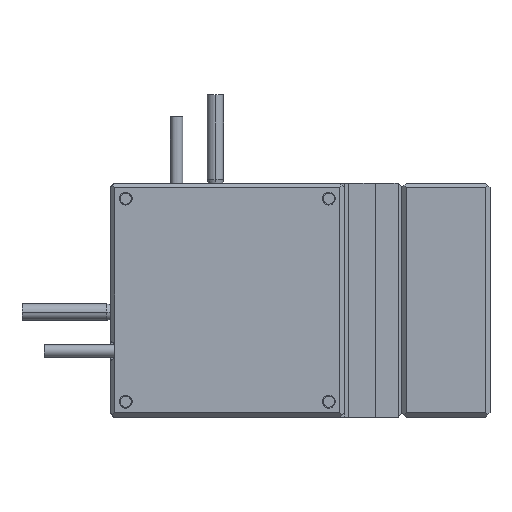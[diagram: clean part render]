
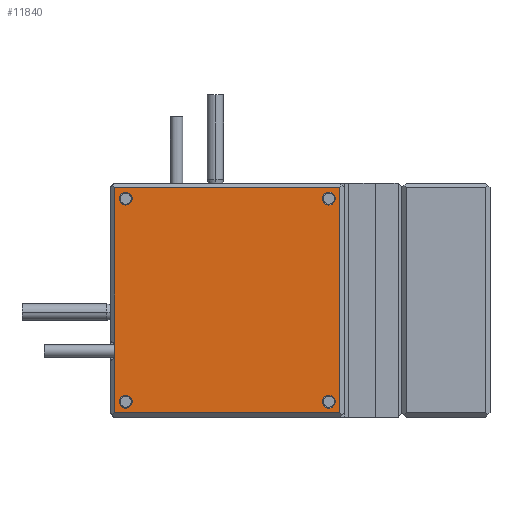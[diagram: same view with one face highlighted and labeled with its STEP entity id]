
A CAD part, front view. The second image highlights one B-rep face of the part: STEP entity #11840.
In plain terms, the highlighted planar face has unit normal (0, -1, 0).
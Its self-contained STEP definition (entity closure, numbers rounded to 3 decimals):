
#1468=DIRECTION('',(0.,0.,-1.));
#1469=VECTOR('',#1468,12.25);
#1470=CARTESIAN_POINT('',(-25.5,0.,-11.75));
#1471=LINE('807',#1470,#1469);
#1475=DIRECTION('',(0.,0.,-1.));
#1476=VECTOR('',#1475,3.5);
#1477=CARTESIAN_POINT('',(-25.5,0.,-8.25));
#1478=LINE('822',#1477,#1476);
#1482=DIRECTION('',(0.,0.,-1.));
#1483=VECTOR('',#1482,35.25);
#1484=CARTESIAN_POINT('',(-25.5,0.,27.));
#1485=LINE('806',#1484,#1483);
#1489=DIRECTION('',(1.,0.,0.));
#1490=VECTOR('',#1489,51.);
#1491=CARTESIAN_POINT('',(-25.5,0.,27.));
#1492=LINE('729',#1491,#1490);
#1496=DIRECTION('',(0.,0.,1.));
#1497=VECTOR('',#1496,51.);
#1498=CARTESIAN_POINT('',(25.5,0.,-24.));
#1499=LINE('724',#1498,#1497);
#1503=DIRECTION('',(1.,0.,0.));
#1504=VECTOR('',#1503,51.);
#1505=CARTESIAN_POINT('',(-25.5,0.,-24.));
#1506=LINE('722',#1505,#1504);
#1510=CARTESIAN_POINT('',(-23.,0.,-21.5));
#1511=DIRECTION('',(0.,1.,0.));
#1512=DIRECTION('',(-1.,0.,0.));
#1513=AXIS2_PLACEMENT_3D('',#1510,#1511,#1512);
#1518=CARTESIAN_POINT('',(-23.,0.,-21.5));
#1519=DIRECTION('',(0.,1.,0.));
#1520=DIRECTION('',(1.,0.,0.));
#1521=AXIS2_PLACEMENT_3D('',#1518,#1519,#1520);
#1526=CARTESIAN_POINT('',(23.,0.,-21.5));
#1527=DIRECTION('',(0.,1.,0.));
#1528=DIRECTION('',(-1.,0.,0.));
#1529=AXIS2_PLACEMENT_3D('',#1526,#1527,#1528);
#1534=CARTESIAN_POINT('',(23.,0.,-21.5));
#1535=DIRECTION('',(0.,1.,0.));
#1536=DIRECTION('',(1.,0.,0.));
#1537=AXIS2_PLACEMENT_3D('',#1534,#1535,#1536);
#1542=CARTESIAN_POINT('',(-23.,0.,24.5));
#1543=DIRECTION('',(0.,1.,0.));
#1544=DIRECTION('',(-1.,0.,0.));
#1545=AXIS2_PLACEMENT_3D('',#1542,#1543,#1544);
#1550=CARTESIAN_POINT('',(-23.,0.,24.5));
#1551=DIRECTION('',(0.,1.,0.));
#1552=DIRECTION('',(1.,0.,0.));
#1553=AXIS2_PLACEMENT_3D('',#1550,#1551,#1552);
#1558=CARTESIAN_POINT('',(23.,0.,24.5));
#1559=DIRECTION('',(0.,1.,0.));
#1560=DIRECTION('',(-1.,0.,0.));
#1561=AXIS2_PLACEMENT_3D('',#1558,#1559,#1560);
#1566=CARTESIAN_POINT('',(23.,0.,24.5));
#1567=DIRECTION('',(0.,1.,0.));
#1568=DIRECTION('',(1.,0.,0.));
#1569=AXIS2_PLACEMENT_3D('',#1566,#1567,#1568);
#1574=CARTESIAN_POINT('',(-25.5,0.,-11.75));
#1711=CARTESIAN_POINT('',(-25.5,0.,-8.25));
#9195=CARTESIAN_POINT('',(-24.45,0.,-21.5));
#9196=CARTESIAN_POINT('',(-21.55,0.,-21.5));
#9197=VERTEX_POINT('',#9195);
#9198=VERTEX_POINT('',#9196);
#9211=CARTESIAN_POINT('',(21.55,0.,-21.5));
#9212=CARTESIAN_POINT('',(24.45,0.,-21.5));
#9213=VERTEX_POINT('',#9211);
#9214=VERTEX_POINT('',#9212);
#9227=CARTESIAN_POINT('',(-24.45,0.,24.5));
#9228=CARTESIAN_POINT('',(-21.55,0.,24.5));
#9229=VERTEX_POINT('',#9227);
#9230=VERTEX_POINT('',#9228);
#9241=CARTESIAN_POINT('',(21.55,0.,24.5));
#9242=CARTESIAN_POINT('',(24.45,0.,24.5));
#9243=VERTEX_POINT('',#9241);
#9244=VERTEX_POINT('',#9242);
#9279=CARTESIAN_POINT('',(-25.5,0.,-24.));
#9280=CARTESIAN_POINT('',(25.5,0.,-24.));
#9281=VERTEX_POINT('',#9279);
#9282=VERTEX_POINT('',#9280);
#9283=CARTESIAN_POINT('',(25.5,0.,27.));
#9284=VERTEX_POINT('',#9283);
#9293=CARTESIAN_POINT('',(-25.5,0.,27.));
#9294=VERTEX_POINT('',#9293);
#9389=VERTEX_POINT('',#1574);
#9390=VERTEX_POINT('',#1711);
#11798=CARTESIAN_POINT('',(0.,0.,0.));
#11799=DIRECTION('',(0.,-1.,0.));
#11800=DIRECTION('',(1.,0.,0.));
#11801=AXIS2_PLACEMENT_3D('',#11798,#11799,#11800);
#11802=PLANE('165',#11801);
#11804=ORIENTED_EDGE('807',*,*,#11803,.F.);
#11806=ORIENTED_EDGE('822',*,*,#11805,.F.);
#11808=ORIENTED_EDGE('806',*,*,#11807,.F.);
#11810=ORIENTED_EDGE('729',*,*,#11809,.T.);
#11811=ORIENTED_EDGE('724',*,*,#11778,.F.);
#11813=ORIENTED_EDGE('722',*,*,#11812,.F.);
#11814=EDGE_LOOP('165',(#11804,#11806,#11808,#11810,#11811,#11813));
#11815=FACE_OUTER_BOUND('165',#11814,.F.);
#11817=ORIENTED_EDGE('670',*,*,#11816,.F.);
#11819=ORIENTED_EDGE('671',*,*,#11818,.F.);
#11820=EDGE_LOOP('165',(#11817,#11819));
#11821=FACE_BOUND('165',#11820,.F.);
#11823=ORIENTED_EDGE('677',*,*,#11822,.F.);
#11825=ORIENTED_EDGE('678',*,*,#11824,.F.);
#11826=EDGE_LOOP('165',(#11823,#11825));
#11827=FACE_BOUND('165',#11826,.F.);
#11829=ORIENTED_EDGE('690',*,*,#11828,.F.);
#11831=ORIENTED_EDGE('691',*,*,#11830,.F.);
#11832=EDGE_LOOP('165',(#11829,#11831));
#11833=FACE_BOUND('165',#11832,.F.);
#11835=ORIENTED_EDGE('697',*,*,#11834,.F.);
#11837=ORIENTED_EDGE('698',*,*,#11836,.F.);
#11838=EDGE_LOOP('165',(#11835,#11837));
#11839=FACE_BOUND('165',#11838,.F.);
#1514=CIRCLE('670',#1513,1.45);
#1522=CIRCLE('671',#1521,1.45);
#1530=CIRCLE('677',#1529,1.45);
#1538=CIRCLE('678',#1537,1.45);
#1546=CIRCLE('690',#1545,1.45);
#1554=CIRCLE('691',#1553,1.45);
#1562=CIRCLE('697',#1561,1.45);
#1570=CIRCLE('698',#1569,1.45);
#11778=EDGE_CURVE('724',#9282,#9284,#1499,.T.);
#11803=EDGE_CURVE('807',#9389,#9281,#1471,.T.);
#11805=EDGE_CURVE('822',#9390,#9389,#1478,.T.);
#11807=EDGE_CURVE('806',#9294,#9390,#1485,.T.);
#11809=EDGE_CURVE('729',#9294,#9284,#1492,.T.);
#11812=EDGE_CURVE('722',#9281,#9282,#1506,.T.);
#11816=EDGE_CURVE('670',#9197,#9198,#1514,.T.);
#11818=EDGE_CURVE('671',#9198,#9197,#1522,.T.);
#11822=EDGE_CURVE('677',#9213,#9214,#1530,.T.);
#11824=EDGE_CURVE('678',#9214,#9213,#1538,.T.);
#11828=EDGE_CURVE('690',#9229,#9230,#1546,.T.);
#11830=EDGE_CURVE('691',#9230,#9229,#1554,.T.);
#11834=EDGE_CURVE('697',#9243,#9244,#1562,.T.);
#11836=EDGE_CURVE('698',#9244,#9243,#1570,.T.);
#11840=ADVANCED_FACE('165',(#11815,#11821,#11827,#11833,#11839),#11802,.T.);
